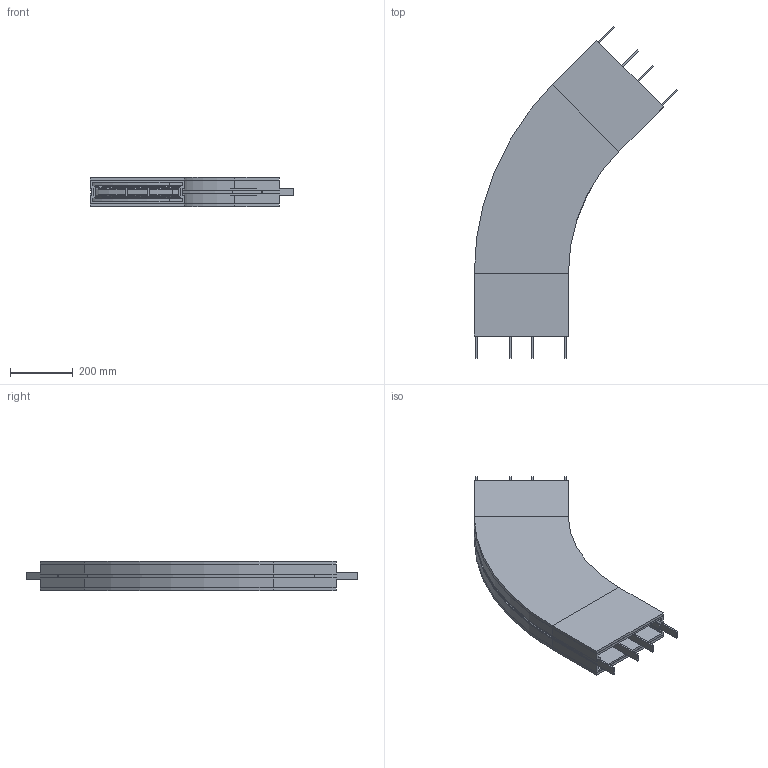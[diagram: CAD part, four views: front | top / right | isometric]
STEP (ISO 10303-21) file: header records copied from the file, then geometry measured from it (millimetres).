
FILE_DESCRIPTION (( 'STEP AP214' ), '1' );
FILE_NAME ('FBBP 45A300R700L200L200.00.step', '2026-05-29T10:20:32', ( '' ), ( '' ), 'SwSTEP 2.0', 'SolidWorks 2024', '' );
FILE_SCHEMA (( 'AUTOMOTIVE_DESIGN' ));
Length unit declared in the file: millimetre
Products named in the file (1): FBBP 45A300R700L200L200.00
Bounding box: 648.58 x 1058.53 x 93 mm (x, y, z)
Volume: 10424381.5 mm3; surface area: 2732755.8 mm2
Topology: 11 solids, 11 shells, 375 faces, 845 edges, 492 vertices
Faces by surface type: plane 274, cone 66, cylinder 30, torus 5
Entity records: 10191 total; most frequent: DIRECTION 1724, CARTESIAN_POINT 1713, ORIENTED_EDGE 1690, EDGE_CURVE 845, LINE 718, VECTOR 718, AXIS2_PLACEMENT_3D 503, VERTEX_POINT 492
